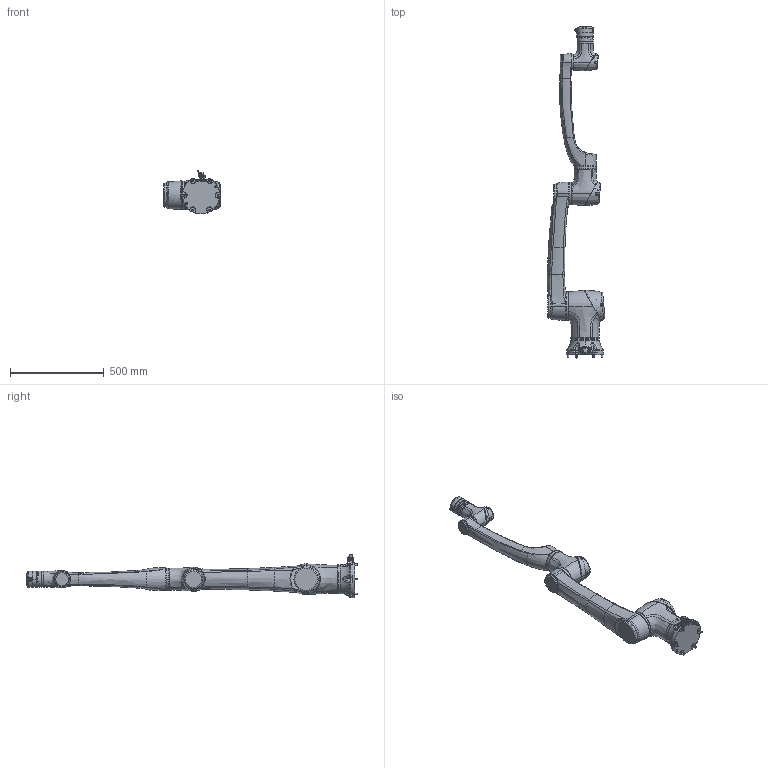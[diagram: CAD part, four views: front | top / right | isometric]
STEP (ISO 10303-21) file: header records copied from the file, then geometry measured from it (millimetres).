
FILE_DESCRIPTION (( 'STEP AP203' ), '1' );
FILE_NAME ('E10L-pro儂迮忒_20230227.STEP', '2023-03-06T00:17:54', ( '' ), ( '' ), 'SwSTEP 2.0', 'SolidWorks 2020', '' );
FILE_SCHEMA (( 'CONFIG_CONTROL_DESIGN' ));
Length unit declared in the file: millimetre
Products named in the file (27): Elfin_菁釱郪璃_脣芛裔; Elfin_底座组件_插头卡环; E10-L奻旋耀倰_20220706; E10-L狟旋耀倰_20220706; 32耀郪妗极耀倰_20220705; 25axial_module_耀倰_20220705; HREF-01-04-01-203A1 25模组后端盖_增加锥形孔; 17axial_module_妗极耀倰_20220705; HREF-01-03-413A P10-L上臂顶盖（砂纹白）_简化; E10L-pro儂迮忒_20230227; 32axial_module_耀倰_20220627; HREF-01-04-04-125A1 17模组后端盖_增加锥形孔; Elfin_菁釱郪璃_脣芛釱; HREF-01-04-01-165A1 25壽誹俋褲YZ; 10kg狟旋狟耜裔耀倰_20220706; 17粣耀郪妗极耀倰; Elfin_菁釱脣芛; M3x14_IP66_20190806_2.0_CB3-16; 10kg菁釱耀倰_20220706; 32模组后端盖模型_增加锥形孔; 10kg奻旋耜裔耀倰__20220706; 5kg狟旋狟耜裔耀倰_20220706; 17_一体化力矩末端2.0_简化_20230227; GB／T70．1-2000内六角圆柱头螺钉M8×30; E10L-pro奻旋耀倰_20230227; E10-L狟旋郪璃耀倰_20220706
Assembly tree (42 placements, depth 4):
  E10L-pro儂迮忒_20230227
    10kg菁釱耀倰_20220706
      10kg菁釱耀倰_20220706
      Elfin_菁釱脣芛
        Elfin_菁釱郪璃_脣芛釱
        Elfin_菁釱郪璃_脣芛裔
        Elfin_底座组件_插头卡环
    32axial_module_耀倰_20220627
      32耀郪妗极耀倰_20220705
      32模组后端盖模型_增加锥形孔
      M3x14_IP66_20190806_2.0_CB3-16  x4
    E10-L狟旋郪璃耀倰_20220706
      E10-L狟旋耀倰_20220706
      5kg狟旋狟耜裔耀倰_20220706
      10kg狟旋狟耜裔耀倰_20220706
    25axial_module_耀倰_20220705
      M3x14_IP66_20190806_2.0_CB3-16  x4
      HREF-01-04-01-165A1 25壽誹俋褲YZ
      HREF-01-04-01-203A1 25模组后端盖_增加锥形孔
    E10L-pro奻旋耀倰_20230227
      E10-L奻旋耀倰_20220706
      10kg奻旋耜裔耀倰__20220706
      HREF-01-03-413A P10-L上臂顶盖（砂纹白）_简化
    17axial_module_妗极耀倰_20220705
      17粣耀郪妗极耀倰
      HREF-01-04-04-125A1 17模组后端盖_增加锥形孔
      M3x14_IP66_20190806_2.0_CB3-16  x4
    GB／T70．1-2000内六角圆柱头螺钉M8×30  x6
    17_一体化力矩末端2.0_简化_20230227
Bounding box: 307.27 x 1768.7 x 234.41 mm (x, y, z)
Volume: 22538471 mm3; surface area: 1456034.5 mm2
Topology: 61 solids, 66 shells, 3683 faces, 8786 edges, 5372 vertices
Faces by surface type: bspline 1105, plane 1063, cylinder 873, cone 377, torus 257, sphere 8
Entity records: 285962 total; most frequent: CARTESIAN_POINT 214142, ORIENTED_EDGE 15836, DIRECTION 11976, EDGE_CURVE 7918, VERTEX_POINT 4901, AXIS2_PLACEMENT_3D 4861, EDGE_LOOP 3619, ADVANCED_FACE 3308
